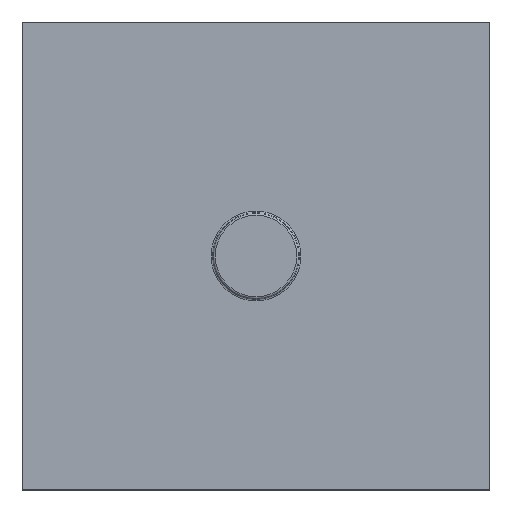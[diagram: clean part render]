
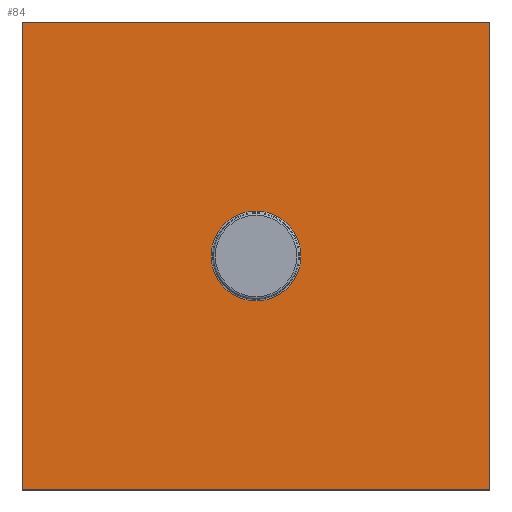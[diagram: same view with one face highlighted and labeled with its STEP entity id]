
A CAD part, top view. The second image highlights one B-rep face of the part: STEP entity #84.
In plain terms, the highlighted planar face has unit normal (0, 0, 1).
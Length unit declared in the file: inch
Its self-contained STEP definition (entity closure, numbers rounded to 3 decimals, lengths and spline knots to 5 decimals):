
#84=ADVANCED_FACE('',(#115,#116),#117,.F.);
#115=FACE_OUTER_BOUND('',#151,.T.);
#116=FACE_BOUND('',#152,.T.);
#117=PLANE('',#153);
#151=EDGE_LOOP('',(#208,#209,#210,#211));
#152=EDGE_LOOP('',(#212));
#153=AXIS2_PLACEMENT_3D('',#213,#214,#215);
#208=ORIENTED_EDGE('',*,*,#256,.T.);
#209=ORIENTED_EDGE('',*,*,#257,.T.);
#210=ORIENTED_EDGE('',*,*,#258,.T.);
#211=ORIENTED_EDGE('',*,*,#259,.T.);
#212=ORIENTED_EDGE('',*,*,#255,.F.);
#213=CARTESIAN_POINT('',(-1.24065,-0.51097,0.922));
#214=DIRECTION('',(0.,0.0,-1.0));
#215=DIRECTION('',(-1.0,0.0,0.));
#255=EDGE_CURVE('',#286,#286,#287,.T.);
#256=EDGE_CURVE('',#288,#289,#290,.T.);
#257=EDGE_CURVE('',#289,#291,#292,.T.);
#258=EDGE_CURVE('',#291,#293,#294,.T.);
#259=EDGE_CURVE('',#293,#288,#295,.T.);
#286=VERTEX_POINT('',#326);
#287=CIRCLE('',#327,0.19214);
#288=VERTEX_POINT('',#328);
#289=VERTEX_POINT('',#329);
#290=LINE('',#330,#331);
#291=VERTEX_POINT('',#332);
#292=LINE('',#333,#334);
#293=VERTEX_POINT('',#335);
#294=LINE('',#336,#337);
#295=LINE('',#338,#339);
#326=CARTESIAN_POINT('',(-1.43279,-0.51097,0.922));
#327=AXIS2_PLACEMENT_3D('',#373,#374,#375);
#328=CARTESIAN_POINT('',(-2.24065,0.48903,0.922));
#329=CARTESIAN_POINT('',(-2.24065,-1.51097,0.922));
#330=CARTESIAN_POINT('',(-2.24065,-0.51097,0.922));
#331=VECTOR('',#376,1.0);
#332=CARTESIAN_POINT('',(-0.24065,-1.51097,0.922));
#333=CARTESIAN_POINT('',(-1.24065,-1.51097,0.922));
#334=VECTOR('',#377,1.0);
#335=CARTESIAN_POINT('',(-0.24065,0.48903,0.922));
#336=CARTESIAN_POINT('',(-0.24065,-0.51097,0.922));
#337=VECTOR('',#378,1.0);
#338=CARTESIAN_POINT('',(-1.24065,0.48903,0.922));
#339=VECTOR('',#379,1.0);
#373=CARTESIAN_POINT('',(-1.24065,-0.51097,0.922));
#374=DIRECTION('',(0.,-0.0,1.0));
#375=DIRECTION('',(1.0,0.0,0.));
#376=DIRECTION('',(-0.0,-1.0,0.0));
#377=DIRECTION('',(1.0,0.0,0.));
#378=DIRECTION('',(0.0,1.0,0.0));
#379=DIRECTION('',(-1.0,0.0,0.));
